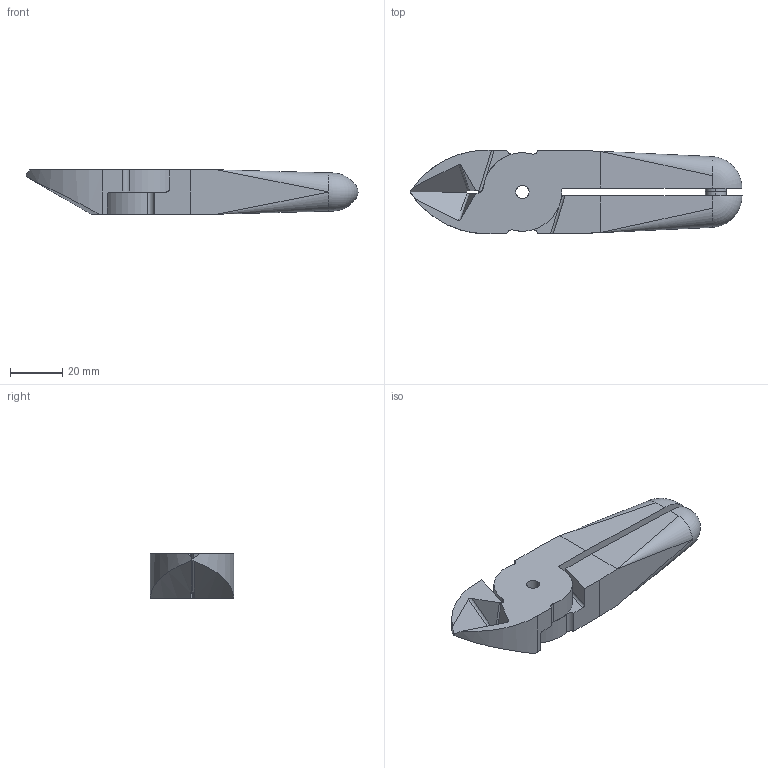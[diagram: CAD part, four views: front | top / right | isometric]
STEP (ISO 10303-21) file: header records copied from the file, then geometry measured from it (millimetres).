
FILE_DESCRIPTION (( 'STEP AP214' ), '1' );
FILE_NAME ('N30AS.STEP', '2019-11-29T02:20:27', ( '微软用户' ), ( '微软中国' ), 'SwSTEP 2.0', 'SolidWorks 2016', '' );
FILE_SCHEMA (( 'AUTOMOTIVE_DESIGN' ));
Length unit declared in the file: millimetre
Products named in the file (1): N30AS
Bounding box: 126.99 x 32 x 17 mm (x, y, z)
Surface area: 15339.3 mm2 (no closed solid volume)
Topology: 0 solids, 4 shells, 74 faces, 220 edges, 142 vertices
Faces by surface type: plane 38, cylinder 27, bspline 9
Entity records: 6094 total; most frequent: CARTESIAN_POINT 3858, ORIENTED_EDGE 404, DIRECTION 325, EDGE_CURVE 212, VERTEX_POINT 142, LINE 109, VECTOR 109, AXIS2_PLACEMENT_3D 108
